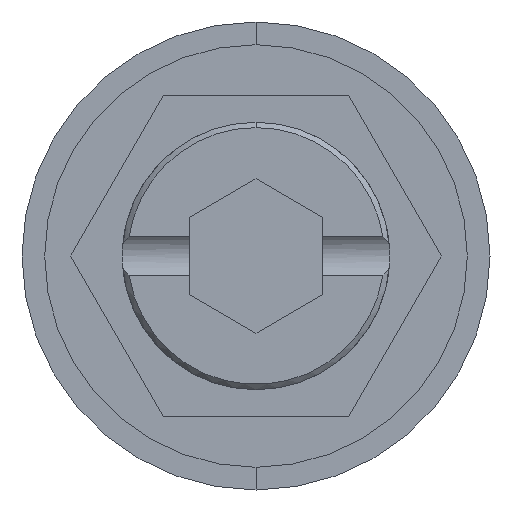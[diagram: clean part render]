
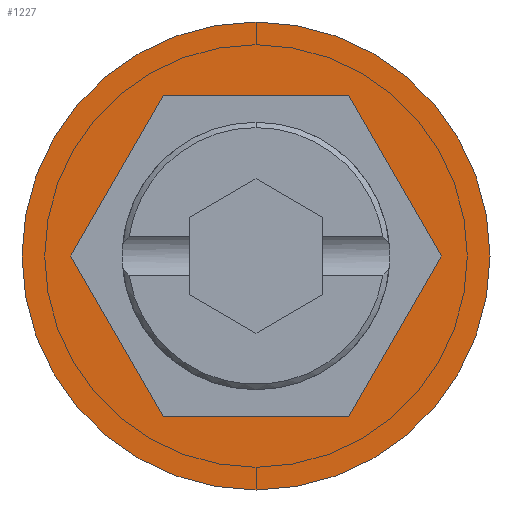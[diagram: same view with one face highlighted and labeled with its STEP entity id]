
A CAD part, front view. The second image highlights one B-rep face of the part: STEP entity #1227.
In plain terms, the highlighted planar face has unit normal (0, -1, 0).
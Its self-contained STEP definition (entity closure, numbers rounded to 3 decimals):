
#41 = ORIENTED_EDGE ( 'NONE', *, *, #1388, .F. ) ;
#123 = AXIS2_PLACEMENT_3D ( 'NONE', #1780, #1803, #1805 ) ;
#239 = CIRCLE ( 'NONE', #2061, 8.75 ) ;
#278 = AXIS2_PLACEMENT_3D ( 'NONE', #2064, #2219, #1699 ) ;
#285 = VECTOR ( 'NONE', #1133, 1000. ) ;
#290 = LINE ( 'NONE', #1137, #285 ) ;
#346 = LINE ( 'NONE', #1357, #359 ) ;
#359 = VECTOR ( 'NONE', #1359, 1000. ) ;
#394 = VECTOR ( 'NONE', #1523, 1000. ) ;
#397 = CARTESIAN_POINT ( 'NONE',  ( 0., 0., -8.75 ) ) ;
#401 = CARTESIAN_POINT ( 'NONE',  ( 0., 0., 8.75 ) ) ;
#407 = LINE ( 'NONE', #1529, #394 ) ;
#415 = VECTOR ( 'NONE', #1895, 1000. ) ;
#418 = LINE ( 'NONE', #1892, #415 ) ;
#433 = FACE_OUTER_BOUND ( 'NONE', #940, .T. ) ;
#440 = FACE_BOUND ( 'NONE', #859, .T. ) ;
#462 = VECTOR ( 'NONE', #1714, 1000. ) ;
#468 = LINE ( 'NONE', #1706, #462 ) ;
#505 = VECTOR ( 'NONE', #1952, 1000. ) ;
#507 = LINE ( 'NONE', #1921, #505 ) ;
#515 = CIRCLE ( 'NONE', #278, 8.75 ) ;
#691 = CARTESIAN_POINT ( 'NONE',  ( 6.928, 0., 0. ) ) ;
#702 = CARTESIAN_POINT ( 'NONE',  ( -3.464, 0., -6. ) ) ;
#782 = DIRECTION ( 'NONE',  ( 0., 0., -1. ) ) ;
#784 = DIRECTION ( 'NONE',  ( 0., -1., 0. ) ) ;
#786 = CARTESIAN_POINT ( 'NONE',  ( 0., 0., 0. ) ) ;
#859 = EDGE_LOOP ( 'NONE', ( #1465, #1824, #1870, #1075, #41, #1684 ) ) ;
#940 = EDGE_LOOP ( 'NONE', ( #1308, #1901 ) ) ;
#1030 = VERTEX_POINT ( 'NONE', #2089 ) ;
#1054 = CARTESIAN_POINT ( 'NONE',  ( -6.928, 0., 0. ) ) ;
#1069 = EDGE_CURVE ( 'NONE', #2168, #1030, #507, .T. ) ;
#1075 = ORIENTED_EDGE ( 'NONE', *, *, #1304, .F. ) ;
#1094 = EDGE_CURVE ( 'NONE', #1779, #1158, #515, .T. ) ;
#1133 = DIRECTION ( 'NONE',  ( 0.5, 0., 0.866 ) ) ;
#1137 = CARTESIAN_POINT ( 'NONE',  ( 3.464, 0., -6. ) ) ;
#1158 = VERTEX_POINT ( 'NONE', #401 ) ;
#1197 = VERTEX_POINT ( 'NONE', #1703 ) ;
#1203 = EDGE_CURVE ( 'NONE', #1553, #2168, #468, .T. ) ;
#1227 = ADVANCED_FACE ( 'NONE', ( #440, #433 ), #1801, .T. ) ;
#1262 = EDGE_CURVE ( 'NONE', #1311, #1553, #418, .T. ) ;
#1304 = EDGE_CURVE ( 'NONE', #1197, #1311, #407, .T. ) ;
#1308 = ORIENTED_EDGE ( 'NONE', *, *, #1094, .T. ) ;
#1311 = VERTEX_POINT ( 'NONE', #1885 ) ;
#1357 = CARTESIAN_POINT ( 'NONE',  ( 6.928, 0., 0. ) ) ;
#1359 = DIRECTION ( 'NONE',  ( -0.5, 0., 0.866 ) ) ;
#1388 = EDGE_CURVE ( 'NONE', #2166, #1197, #346, .T. ) ;
#1465 = ORIENTED_EDGE ( 'NONE', *, *, #1069, .F. ) ;
#1493 = EDGE_CURVE ( 'NONE', #1030, #2166, #290, .T. ) ;
#1523 = DIRECTION ( 'NONE',  ( -1., 0., 0. ) ) ;
#1529 = CARTESIAN_POINT ( 'NONE',  ( 3.464, 0., 6. ) ) ;
#1553 = VERTEX_POINT ( 'NONE', #1054 ) ;
#1605 = EDGE_CURVE ( 'NONE', #1158, #1779, #239, .T. ) ;
#1684 = ORIENTED_EDGE ( 'NONE', *, *, #1493, .F. ) ;
#1699 = DIRECTION ( 'NONE',  ( 0., 0., -1. ) ) ;
#1703 = CARTESIAN_POINT ( 'NONE',  ( 3.464, 0., 6. ) ) ;
#1706 = CARTESIAN_POINT ( 'NONE',  ( -6.928, 0., 0. ) ) ;
#1714 = DIRECTION ( 'NONE',  ( 0.5, 0., -0.866 ) ) ;
#1779 = VERTEX_POINT ( 'NONE', #397 ) ;
#1780 = CARTESIAN_POINT ( 'NONE',  ( 0., 0., 0. ) ) ;
#1801 = PLANE ( 'NONE',  #123 ) ;
#1803 = DIRECTION ( 'NONE',  ( 0., -1., 0. ) ) ;
#1805 = DIRECTION ( 'NONE',  ( 0., 0., -1. ) ) ;
#1824 = ORIENTED_EDGE ( 'NONE', *, *, #1203, .F. ) ;
#1870 = ORIENTED_EDGE ( 'NONE', *, *, #1262, .F. ) ;
#1885 = CARTESIAN_POINT ( 'NONE',  ( -3.464, 0., 6. ) ) ;
#1892 = CARTESIAN_POINT ( 'NONE',  ( -3.464, 0., 6. ) ) ;
#1895 = DIRECTION ( 'NONE',  ( -0.5, 0., -0.866 ) ) ;
#1901 = ORIENTED_EDGE ( 'NONE', *, *, #1605, .T. ) ;
#1921 = CARTESIAN_POINT ( 'NONE',  ( -3.464, 0., -6. ) ) ;
#1952 = DIRECTION ( 'NONE',  ( 1., 0., 0. ) ) ;
#2061 = AXIS2_PLACEMENT_3D ( 'NONE', #786, #784, #782 ) ;
#2064 = CARTESIAN_POINT ( 'NONE',  ( 0., 0., 0. ) ) ;
#2089 = CARTESIAN_POINT ( 'NONE',  ( 3.464, 0., -6. ) ) ;
#2166 = VERTEX_POINT ( 'NONE', #691 ) ;
#2168 = VERTEX_POINT ( 'NONE', #702 ) ;
#2219 = DIRECTION ( 'NONE',  ( 0., -1., 0. ) ) ;
